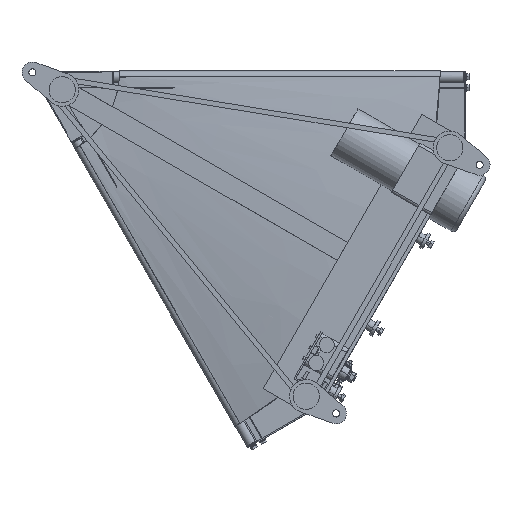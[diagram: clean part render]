
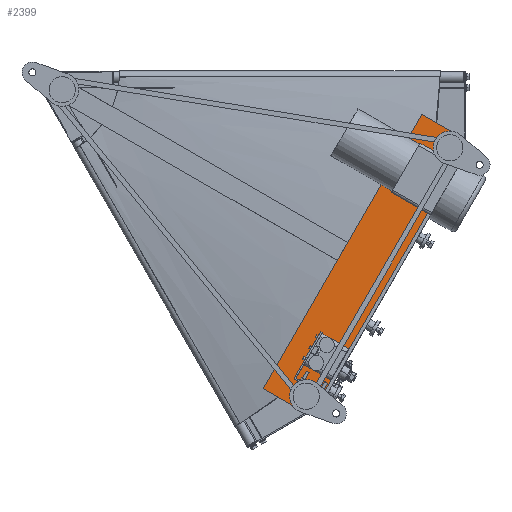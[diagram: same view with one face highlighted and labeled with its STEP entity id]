
A CAD part, front view. The second image highlights one B-rep face of the part: STEP entity #2399.
In plain terms, the highlighted planar face has unit normal (0, -1, 0).
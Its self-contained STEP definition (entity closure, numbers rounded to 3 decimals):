
#2399=ADVANCED_FACE('',(#6730),#6729,.F.);
#6729=PLANE('',#17511);
#6730=FACE_OUTER_BOUND('',#17512,.T.);
#17508=CARTESIAN_POINT('',(409.235,-167.5,-609.44));
#17509=DIRECTION('',(0.,1.,0.));
#17510=DIRECTION('',(0.208,0.,0.978));
#17511=AXIS2_PLACEMENT_3D('',#17508,#17509,#17510);
#17512=EDGE_LOOP('',(#22994,#22995,#22996,#22997,#22998,#22999));
#22994=ORIENTED_EDGE('',*,*,#26904,.F.);
#22995=ORIENTED_EDGE('',*,*,#26893,.F.);
#22996=ORIENTED_EDGE('',*,*,#26902,.F.);
#22997=ORIENTED_EDGE('',*,*,#26910,.F.);
#22998=ORIENTED_EDGE('',*,*,#26908,.F.);
#22999=ORIENTED_EDGE('',*,*,#26906,.F.);
#26893=EDGE_CURVE('',#34011,#34012,#34013,.T.);
#26902=EDGE_CURVE('',#34073,#34011,#34074,.T.);
#26904=EDGE_CURVE('',#34012,#34086,#34087,.T.);
#26906=EDGE_CURVE('',#34086,#34099,#34100,.T.);
#26908=EDGE_CURVE('',#34099,#34112,#34113,.T.);
#26910=EDGE_CURVE('',#34112,#34073,#34125,.T.);
#34011=VERTEX_POINT('',#48845);
#34012=VERTEX_POINT('',#48846);
#34013=LINE('',#48847,#48848);
#34073=VERTEX_POINT('',#48880);
#34074=LINE('',#48881,#48882);
#34086=VERTEX_POINT('',#48887);
#34087=LINE('',#48888,#48889);
#34099=VERTEX_POINT('',#48894);
#34100=LINE('',#48895,#48896);
#34112=VERTEX_POINT('',#48901);
#34113=LINE('',#48902,#48903);
#34125=LINE('',#48908,#48909);
#48845=CARTESIAN_POINT('',(715.592,-167.5,-78.284));
#48846=CARTESIAN_POINT('',(776.214,-167.5,-113.284));
#48847=CARTESIAN_POINT('',(715.592,-167.5,-78.284));
#48848=VECTOR('',#48849,70.);
#48849=DIRECTION('',(0.866,0.,-0.5));
#48880=CARTESIAN_POINT('',(425.592,-167.5,-580.579));
#48881=CARTESIAN_POINT('',(425.592,-167.5,-580.579));
#48882=VECTOR('',#48883,580.);
#48883=DIRECTION('',(0.5,0.,0.866));
#48887=CARTESIAN_POINT('',(787.195,-167.5,-154.265));
#48888=CARTESIAN_POINT('',(776.214,-167.5,-113.284));
#48889=VECTOR('',#48890,42.426);
#48890=DIRECTION('',(0.259,0.,-0.966));
#48894=CARTESIAN_POINT('',(527.195,-167.5,-604.598));
#48895=CARTESIAN_POINT('',(787.195,-167.5,-154.265));
#48896=VECTOR('',#48897,520.);
#48897=DIRECTION('',(-0.5,0.,-0.866));
#48901=CARTESIAN_POINT('',(486.214,-167.5,-615.579));
#48902=CARTESIAN_POINT('',(527.195,-167.5,-604.598));
#48903=VECTOR('',#48904,42.426);
#48904=DIRECTION('',(-0.966,0.,-0.259));
#48908=CARTESIAN_POINT('',(486.214,-167.5,-615.579));
#48909=VECTOR('',#48910,70.);
#48910=DIRECTION('',(-0.866,0.,0.5));
